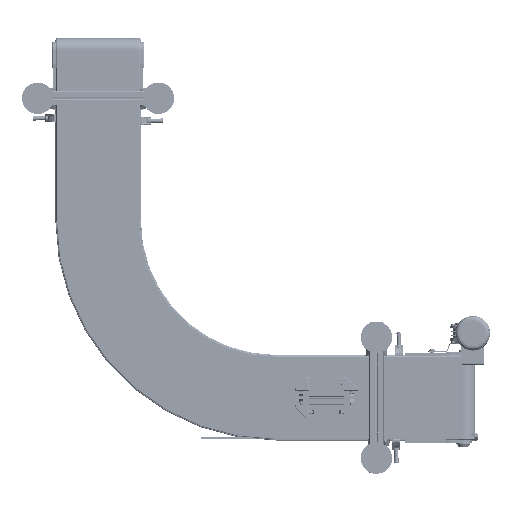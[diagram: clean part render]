
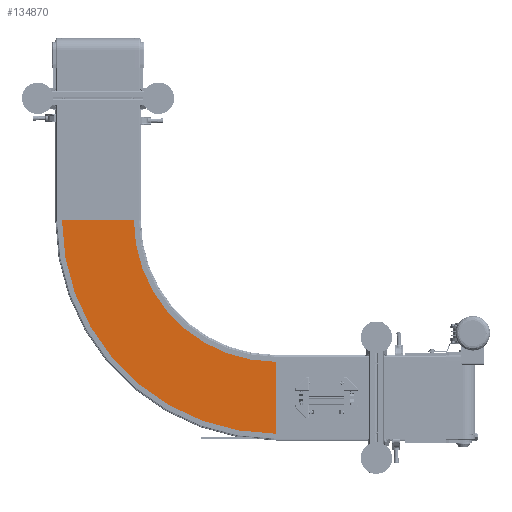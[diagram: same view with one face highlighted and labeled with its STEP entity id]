
A CAD part, front view. The second image highlights one B-rep face of the part: STEP entity #134870.
In plain terms, the highlighted planar face has unit normal (0, -1, 0).
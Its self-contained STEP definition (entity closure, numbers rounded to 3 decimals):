
#472 = ORIENTED_EDGE ( 'NONE', *, *, #165118, .F. ) ;
#3077 = DIRECTION ( 'NONE',  ( 0., 0., 1. ) ) ;
#13900 = VERTEX_POINT ( 'NONE', #126768 ) ;
#25049 = ORIENTED_EDGE ( 'NONE', *, *, #47978, .T. ) ;
#46871 = DIRECTION ( 'NONE',  ( 0., 0., 1. ) ) ;
#47978 = EDGE_CURVE ( 'NONE', #210373, #210522, #121261, .T. ) ;
#47986 = CARTESIAN_POINT ( 'NONE',  ( 565., -77.4, 597. ) ) ;
#53049 = DIRECTION ( 'NONE',  ( 0., 0., 1. ) ) ;
#55928 = EDGE_CURVE ( 'NONE', #210373, #129765, #136867, .T. ) ;
#57261 = CARTESIAN_POINT ( 'NONE',  ( 565., -77.4, 1047.7 ) ) ;
#60730 = VECTOR ( 'NONE', #204377, 1000. ) ;
#68560 = DIRECTION ( 'NONE',  ( 0., 1., 0. ) ) ;
#84223 = CIRCLE ( 'NONE', #91327, 450.7 ) ;
#87249 = ORIENTED_EDGE ( 'NONE', *, *, #112632, .T. ) ;
#91327 = AXIS2_PLACEMENT_3D ( 'NONE', #47986, #164277, #46871 ) ;
#100030 = ORIENTED_EDGE ( 'NONE', *, *, #55928, .F. ) ;
#102796 = DIRECTION ( 'NONE',  ( 0., -1., 0. ) ) ;
#103974 = CARTESIAN_POINT ( 'NONE',  ( 565., -77.4, 1047.7 ) ) ;
#106999 = CARTESIAN_POINT ( 'NONE',  ( -114.3, -77.4, 597. ) ) ;
#111559 = CARTESIAN_POINT ( 'NONE',  ( 114.3, -77.4, 597. ) ) ;
#112632 = EDGE_CURVE ( 'NONE', #210522, #13900, #128146, .T. ) ;
#112644 = DIRECTION ( 'NONE',  ( 1., 0., 0. ) ) ;
#120007 = AXIS2_PLACEMENT_3D ( 'NONE', #103974, #68560, #53049 ) ;
#121261 = CIRCLE ( 'NONE', #202622, 679.3 ) ;
#122910 = CARTESIAN_POINT ( 'NONE',  ( 565., -77.4, 1276.3 ) ) ;
#126768 = CARTESIAN_POINT ( 'NONE',  ( 114.3, -77.4, 597. ) ) ;
#128146 = LINE ( 'NONE', #111559, #212237 ) ;
#129765 = VERTEX_POINT ( 'NONE', #57261 ) ;
#134870 = ADVANCED_FACE ( 'NONE', ( #205784 ), #203624, .F. ) ;
#136867 = LINE ( 'NONE', #153530, #60730 ) ;
#147487 = CARTESIAN_POINT ( 'NONE',  ( 565., -77.4, 597. ) ) ;
#153530 = CARTESIAN_POINT ( 'NONE',  ( 565., -77.4, 1047.7 ) ) ;
#164277 = DIRECTION ( 'NONE',  ( 0., -1., 0. ) ) ;
#165118 = EDGE_CURVE ( 'NONE', #129765, #13900, #84223, .T. ) ;
#202622 = AXIS2_PLACEMENT_3D ( 'NONE', #147487, #102796, #3077 ) ;
#203624 = PLANE ( 'NONE',  #120007 ) ;
#204377 = DIRECTION ( 'NONE',  ( 0., 0., -1. ) ) ;
#205784 = FACE_OUTER_BOUND ( 'NONE', #213928, .T. ) ;
#210373 = VERTEX_POINT ( 'NONE', #122910 ) ;
#210522 = VERTEX_POINT ( 'NONE', #106999 ) ;
#212237 = VECTOR ( 'NONE', #112644, 1000. ) ;
#213928 = EDGE_LOOP ( 'NONE', ( #472, #100030, #25049, #87249 ) ) ;
